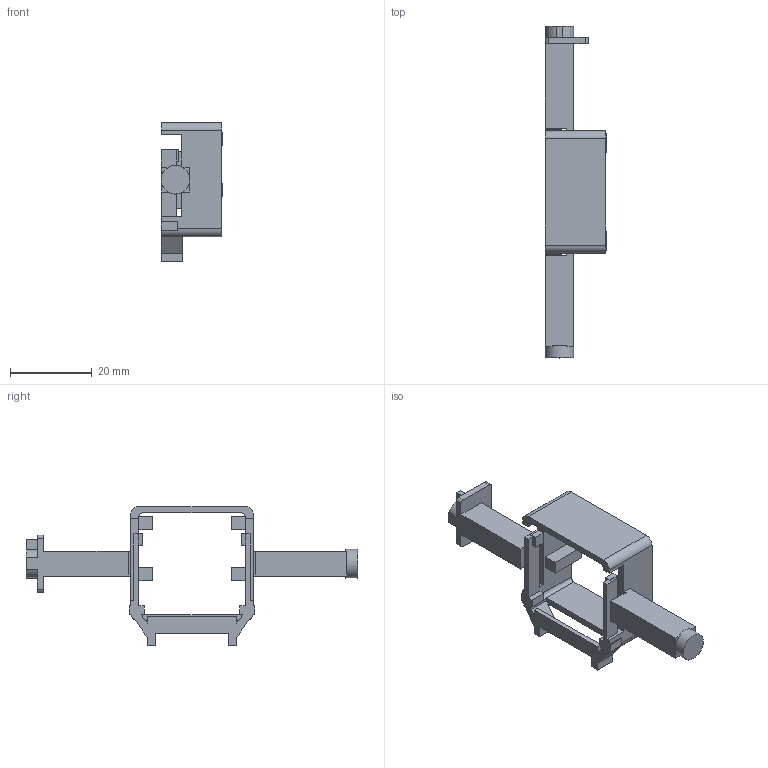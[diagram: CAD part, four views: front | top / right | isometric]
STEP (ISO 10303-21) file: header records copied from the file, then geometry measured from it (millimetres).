
FILE_DESCRIPTION(('Open CASCADE Model'),'2;1');
FILE_NAME('Open CASCADE Shape Model','2026-10-14T00:31:45',('Author'),( 'Open CASCADE'),'Open CASCADE STEP processor 8.0','build123d', 'Unknown');
FILE_SCHEMA(('AUTOMOTIVE_DESIGN { 1 0 10303 214 1 1 1 1 }'));
Length unit declared in the file: millimetre
Products named in the file (2): =>[0:1:1:2]; COMPOUND
Assembly tree (1 placements, depth 2):
  =>[0:1:1:2]
    COMPOUND
Bounding box: 15.12 x 81.2 x 34 mm (x, y, z)
Volume: 5339.6 mm3; surface area: 5764.2 mm2
Topology: 1 solids, 1 shells, 140 faces, 408 edges, 269 vertices
Faces by surface type: plane 125, cylinder 15
Full cylindrical faces by diameter (mm): 7 x1
Entity records: 9780 total; most frequent: CARTESIAN_POINT 1938, DIRECTION 1348, LINE 955, VECTOR 955, ORIENTED_EDGE 816, PCURVE 816, DEFINITIONAL_REPRESENTATION 816, EDGE_CURVE 408
